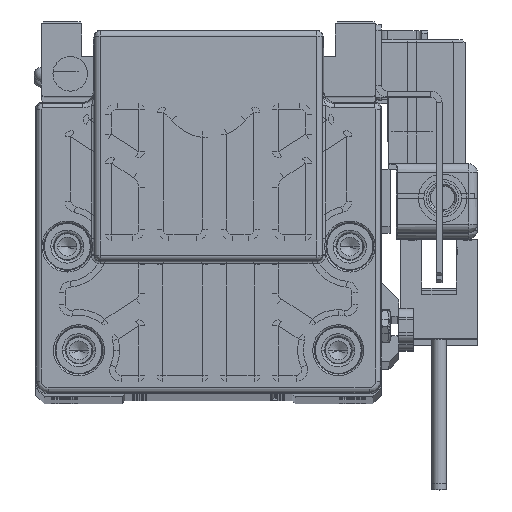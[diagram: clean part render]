
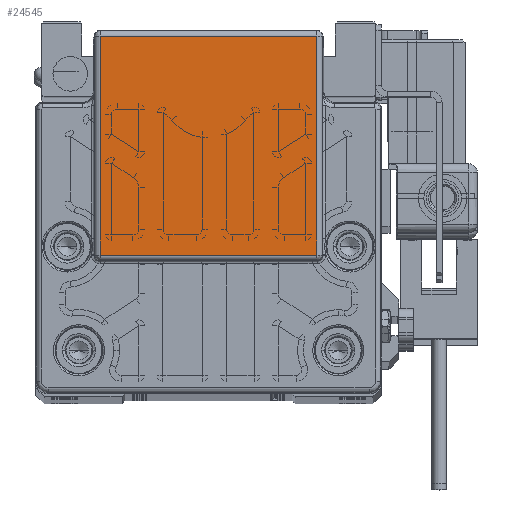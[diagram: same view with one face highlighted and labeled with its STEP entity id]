
A CAD part, top view. The second image highlights one B-rep face of the part: STEP entity #24545.
In plain terms, the highlighted planar face has unit normal (0, 0, 1) as drawn and (0, 0, -1) by its records, which use the part's own axes.
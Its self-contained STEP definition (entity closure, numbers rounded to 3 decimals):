
#2162 = DIRECTION ( 'NONE',  ( 1., 0., 0. ) ) ;
#3025 = VERTEX_POINT ( 'NONE', #22657 ) ;
#3594 = CARTESIAN_POINT ( 'NONE',  ( -18.808, 62.447, -143. ) ) ;
#6042 = VERTEX_POINT ( 'NONE', #25521 ) ;
#8719 = CARTESIAN_POINT ( 'NONE',  ( 19., 62.447, -143. ) ) ;
#9916 = DIRECTION ( 'NONE',  ( 0., 0., -1. ) ) ;
#14724 = ORIENTED_EDGE ( 'NONE', *, *, #57531, .F. ) ;
#16222 = FACE_OUTER_BOUND ( 'NONE', #57193, .T. ) ;
#17881 = CARTESIAN_POINT ( 'NONE',  ( 19., 24.5, -143. ) ) ;
#17888 = VECTOR ( 'NONE', #66072, 1000. ) ;
#19626 = ORIENTED_EDGE ( 'NONE', *, *, #38987, .T. ) ;
#21559 = CARTESIAN_POINT ( 'NONE',  ( 19., 24.518, -143. ) ) ;
#22657 = CARTESIAN_POINT ( 'NONE',  ( 18.808, 24.518, -143. ) ) ;
#23539 = VERTEX_POINT ( 'NONE', #3594 ) ;
#24545 = ADVANCED_FACE ( 'NONE', ( #16222 ), #82033, .T. ) ;
#25521 = CARTESIAN_POINT ( 'NONE',  ( -18.808, 24.518, -143. ) ) ;
#38013 = LINE ( 'NONE', #45194, #56802 ) ;
#38987 = EDGE_CURVE ( 'NONE', #23539, #78890, #52583, .T. ) ;
#39946 = DIRECTION ( 'NONE',  ( 0., -1., 0. ) ) ;
#45194 = CARTESIAN_POINT ( 'NONE',  ( 18.808, 24.5, -143. ) ) ;
#45387 = CARTESIAN_POINT ( 'NONE',  ( 18.808, 62.447, -143. ) ) ;
#48616 = EDGE_CURVE ( 'NONE', #3025, #78890, #38013, .T. ) ;
#49135 = DIRECTION ( 'NONE',  ( 0., 1., 0. ) ) ;
#52583 = LINE ( 'NONE', #8719, #17888 ) ;
#54599 = VECTOR ( 'NONE', #39946, 1000. ) ;
#56802 = VECTOR ( 'NONE', #71756, 1000. ) ;
#57193 = EDGE_LOOP ( 'NONE', ( #74076, #14724, #74953, #19626 ) ) ;
#57531 = EDGE_CURVE ( 'NONE', #6042, #3025, #59096, .T. ) ;
#58092 = CARTESIAN_POINT ( 'NONE',  ( -18.808, 31., -143. ) ) ;
#59096 = LINE ( 'NONE', #21559, #80937 ) ;
#60262 = AXIS2_PLACEMENT_3D ( 'NONE', #17881, #9916, #49135 ) ;
#62769 = EDGE_CURVE ( 'NONE', #23539, #6042, #77103, .T. ) ;
#66072 = DIRECTION ( 'NONE',  ( 1., 0., 0. ) ) ;
#71756 = DIRECTION ( 'NONE',  ( 0., 1., 0. ) ) ;
#74076 = ORIENTED_EDGE ( 'NONE', *, *, #48616, .F. ) ;
#74953 = ORIENTED_EDGE ( 'NONE', *, *, #62769, .F. ) ;
#77103 = LINE ( 'NONE', #58092, #54599 ) ;
#78890 = VERTEX_POINT ( 'NONE', #45387 ) ;
#80937 = VECTOR ( 'NONE', #2162, 1000. ) ;
#82033 = PLANE ( 'NONE',  #60262 ) ;
